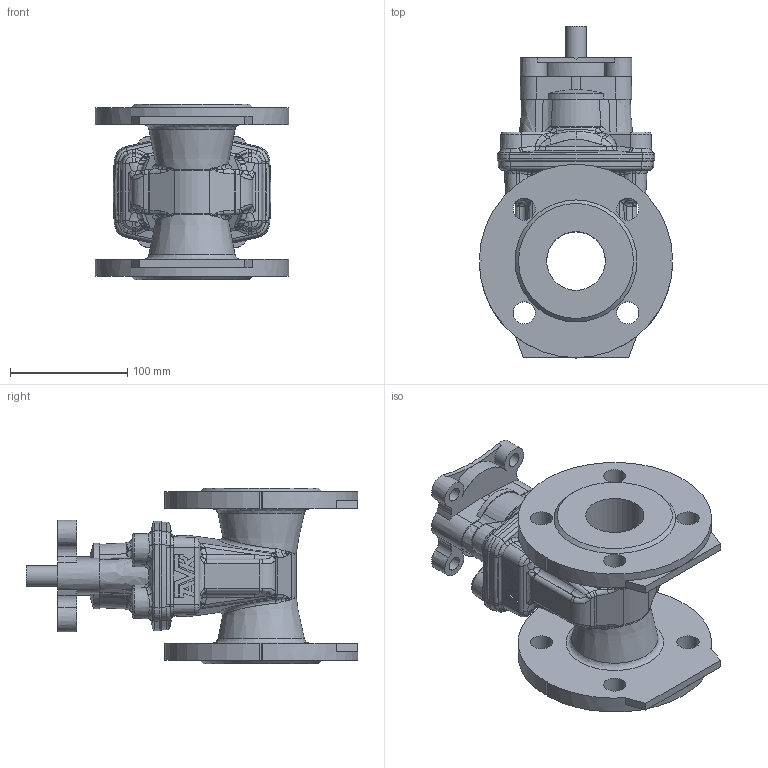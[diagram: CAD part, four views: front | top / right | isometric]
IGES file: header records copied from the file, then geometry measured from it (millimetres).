
Start section: SolidWorks IGES file using analytic representation for surfaces
Global section: file name: \\avksan2\techshare\PBM outline export from Enovia\O_06_42_DN050_X1XXX_REV02.igs; native system: SolidWorks 2022; preprocessor: SolidWorks 2022; author: pbm; date: 251218.075042; units: millimetre
Bounding box: 164.97 x 283 x 150 mm (x, y, z)
Surface area: 217872.7 mm2 (no closed solid volume)
Topology: 0 solids, 0 shells, 594 faces, 3001 edges, 2964 vertices
Faces by surface type: bspline 380, revolution 214
